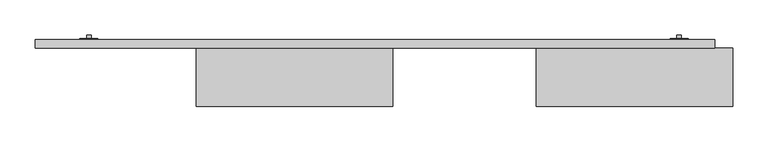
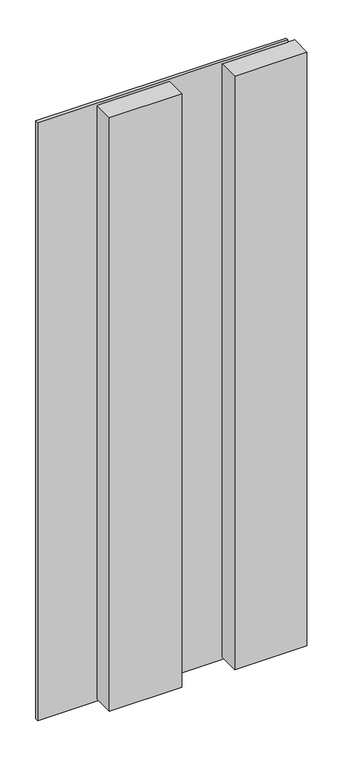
"""IFC4 building model written with IfcOpenShell, lengths in millimetres: proxy geometry, Arktura-SoundForm-Plank-RFA : Arktura-SoundForm-Plank-RFA."""

from ifc_helpers import new_model, si_unit, point, frame, frame_2d, origin, origin_with_axes, place, context, project, spatial, polyline, circle_curve, trimmed, segment, composite_curve, outline, extrude, source, transform, mapped, element, save


def generic_models_e5d22311(model_context):
    return source(origin(), model_context, "Body", "SweptSolid", [
        extrude(outline(polyline([(-279.4, -31.75), (-304.8, -31.75), (-304.8, -30.3215536), (-279.4, -30.3215536), (-279.4, -31.75)])), frame((0.0, 0.0, 1206.5), z_axis=(0.0, 0.0, 1.0), x_axis=(1.0, 0.0, 0.0)), (0.0, 0.0, 1.0), 25.4),
        extrude(outline(composite_curve([segment(trimmed(circle_curve(frame_2d((1219.2, -292.1)), 3.175), [point((1219.2, -295.275))], [point((1219.2, -288.925))], False, "CARTESIAN"), True, "CONTINUOUS"), segment(trimmed(circle_curve(frame_2d((1219.2, -292.1)), 3.175), [point((1219.2, -288.925))], [point((1219.2, -295.275))], False, "CARTESIAN"), True, "CONTINUOUS")], self_intersect=False)), frame((0.0, -30.3215536, 0.0), z_axis=(0.0, 1.0, 0.0), x_axis=(0.0, 0.0, 1.0)), (0.0, 0.0, 1.0), 4.9215536),
        extrude(outline(polyline([(558.8, -31.75), (533.4, -31.75), (533.4, -30.3215536), (558.8, -30.3215536), (558.8, -31.75)])), frame((0.0, 0.0, 1206.5), z_axis=(0.0, 0.0, 1.0), x_axis=(1.0, 0.0, 0.0)), (0.0, 0.0, 1.0), 25.4),
        extrude(outline(composite_curve([segment(trimmed(circle_curve(frame_2d((1219.2, 546.1)), 3.175), [point((1219.2, 542.925))], [point((1219.2, 549.275))], False, "CARTESIAN"), True, "CONTINUOUS"), segment(trimmed(circle_curve(frame_2d((1219.2, 546.1)), 3.175), [point((1219.2, 549.275))], [point((1219.2, 542.925))], False, "CARTESIAN"), True, "CONTINUOUS")], self_intersect=False)), frame((0.0, -30.3215536, 0.0), z_axis=(0.0, 1.0, 0.0), x_axis=(0.0, 0.0, 1.0)), (0.0, 0.0, 1.0), 4.9215536),
        extrude(outline(polyline([(-279.4, -31.75), (-304.8, -31.75), (-304.8, -30.3215536), (-279.4, -30.3215536), (-279.4, -31.75)])), frame((0.0, 0.0, 2352.675), z_axis=(0.0, 0.0, 1.0), x_axis=(1.0, 0.0, 0.0)), (0.0, 0.0, 1.0), 25.4),
        extrude(outline(composite_curve([segment(trimmed(circle_curve(frame_2d((2365.375, -292.1)), 3.175), [point((2365.375, -295.275))], [point((2365.375, -288.925))], False, "CARTESIAN"), True, "CONTINUOUS"), segment(trimmed(circle_curve(frame_2d((2365.375, -292.1)), 3.175), [point((2365.375, -288.925))], [point((2365.375, -295.275))], False, "CARTESIAN"), True, "CONTINUOUS")], self_intersect=False)), frame((0.0, -30.3215536, 0.0), z_axis=(0.0, 1.0, 0.0), x_axis=(0.0, 0.0, 1.0)), (0.0, 0.0, 1.0), 4.9215536),
        extrude(outline(polyline([(558.8, -31.75), (533.4, -31.75), (533.4, -30.3215536), (558.8, -30.3215536), (558.8, -31.75)])), frame((0.0, 0.0, 2352.675), z_axis=(0.0, 0.0, 1.0), x_axis=(1.0, 0.0, 0.0)), (0.0, 0.0, 1.0), 25.4),
        extrude(outline(composite_curve([segment(trimmed(circle_curve(frame_2d((2365.375, 546.1)), 3.175), [point((2365.375, 542.925))], [point((2365.375, 549.275))], False, "CARTESIAN"), True, "CONTINUOUS"), segment(trimmed(circle_curve(frame_2d((2365.375, 546.1)), 3.175), [point((2365.375, 549.275))], [point((2365.375, 542.925))], False, "CARTESIAN"), True, "CONTINUOUS")], self_intersect=False)), frame((0.0, -30.3215536, 0.0), z_axis=(0.0, 1.0, 0.0), x_axis=(0.0, 0.0, 1.0)), (0.0, 0.0, 1.0), 4.9215536),
        extrude(outline(polyline([(-279.4, -31.75), (-304.8, -31.75), (-304.8, -30.3215536), (-279.4, -30.3215536), (-279.4, -31.75)])), frame((0.0, 0.0, 60.325), z_axis=(0.0, 0.0, 1.0), x_axis=(1.0, 0.0, 0.0)), (0.0, 0.0, 1.0), 25.4),
        extrude(outline(composite_curve([segment(trimmed(circle_curve(frame_2d((73.025, -292.1)), 3.175), [point((73.025, -295.275))], [point((73.025, -288.925))], False, "CARTESIAN"), True, "CONTINUOUS"), segment(trimmed(circle_curve(frame_2d((73.025, -292.1)), 3.175), [point((73.025, -288.925))], [point((73.025, -295.275))], False, "CARTESIAN"), True, "CONTINUOUS")], self_intersect=False)), frame((0.0, -30.3215536, 0.0), z_axis=(0.0, 1.0, 0.0), x_axis=(0.0, 0.0, 1.0)), (0.0, 0.0, 1.0), 4.9215536),
        extrude(outline(polyline([(558.8, -31.75), (533.4, -31.75), (533.4, -30.3215536), (558.8, -30.3215536), (558.8, -31.75)])), frame((0.0, 0.0, 60.325), z_axis=(0.0, 0.0, 1.0), x_axis=(1.0, 0.0, 0.0)), (0.0, 0.0, 1.0), 25.4),
        extrude(outline(composite_curve([segment(trimmed(circle_curve(frame_2d((73.025, 546.1)), 3.175), [point((73.025, 542.925))], [point((73.025, 549.275))], False, "CARTESIAN"), True, "CONTINUOUS"), segment(trimmed(circle_curve(frame_2d((73.025, 546.1)), 3.175), [point((73.025, 549.275))], [point((73.025, 542.925))], False, "CARTESIAN"), True, "CONTINUOUS")], self_intersect=False)), frame((0.0, -30.3215536, 0.0), z_axis=(0.0, 1.0, 0.0), x_axis=(0.0, 0.0, 1.0)), (0.0, 0.0, 1.0), 4.9215536),
        extrude(outline(polyline([(-368.3, -43.749976), (-368.3, -31.75), (596.9, -31.75), (596.9, -43.749976), (-368.3, -43.749976)])), origin_with_axes(), (0.0, 0.0, 1.0), 2438.4),
        extrude(outline(polyline([(622.3, -127.0), (342.9, -127.0), (342.9, -43.749976), (622.3, -43.749976), (622.3, -127.0)])), frame((0.0, 0.0, 9.525), z_axis=(0.0, 0.0, 1.0), x_axis=(1.0, 0.0, 0.0)), (0.0, 0.0, 1.0), 2419.35),
        extrude(outline(polyline([(-139.7, -127.0), (-139.7, -43.749976), (139.7, -43.749976), (139.7, -127.0), (-139.7, -127.0)])), frame((0.0, 0.0, 9.525), z_axis=(0.0, 0.0, 1.0), x_axis=(1.0, 0.0, 0.0)), (0.0, 0.0, 1.0), 2419.35),
    ])


if __name__ == "__main__":
    model = new_model("IFC4")
    model_context = context("Model", 3, world=origin())
    ifc_project = project(units=[si_unit("LENGTHUNIT", "METRE", prefix="MILLI")], contexts=[model_context])
    site = spatial("IfcSite", under=ifc_project)
    building = spatial("IfcBuilding", under=site)
    placement = place(None, origin())
    generic_models_shape = generic_models_e5d22311(model_context)
    element("IfcBuildingElementProxy", 1, Name="Arktura-SoundForm-Plank-RFA : Arktura-SoundForm-Plank-RFA", ObjectType="Arktura-SoundForm-Plank-RFA : Arktura-SoundForm-Plank-RFA", at=placement, inside=building, context=model_context, shape_type="MappedRepresentation", body=[
        mapped(generic_models_shape, transform((0.0, 0.0, 0.0), x_axis=(1.0, 0.0, 0.0), y_axis=(0.0, 1.0, 0.0), z_axis=(0.0, 0.0, 1.0))),
    ])
    save(model, "model.ifc")
